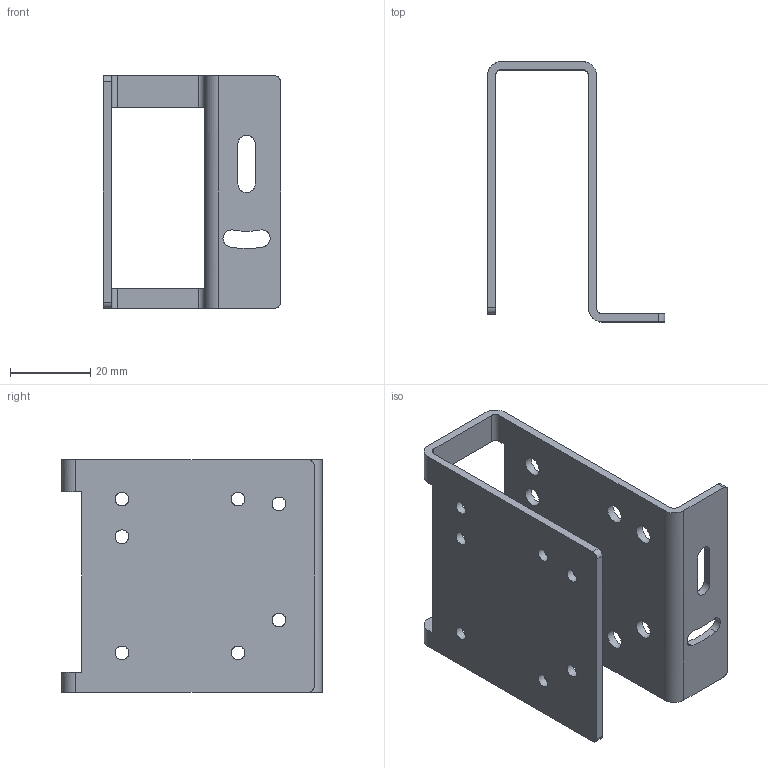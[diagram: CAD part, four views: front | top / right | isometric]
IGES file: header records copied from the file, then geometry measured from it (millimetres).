
Global section: file name: 153-00819_MSP F55; native system: Autodesk Inventor 2016; preprocessor: unknown; author: Göhrig,; organization: 11; date: 20180227.091954; units: millimetre
Bounding box: 44.25 x 65 x 58 mm (x, y, z)
Volume: 15748.9 mm3; surface area: 17427.1 mm2
Topology: 1 solids, 1 shells, 54 faces, 169 edges, 115 vertices
Faces by surface type: bspline 54
